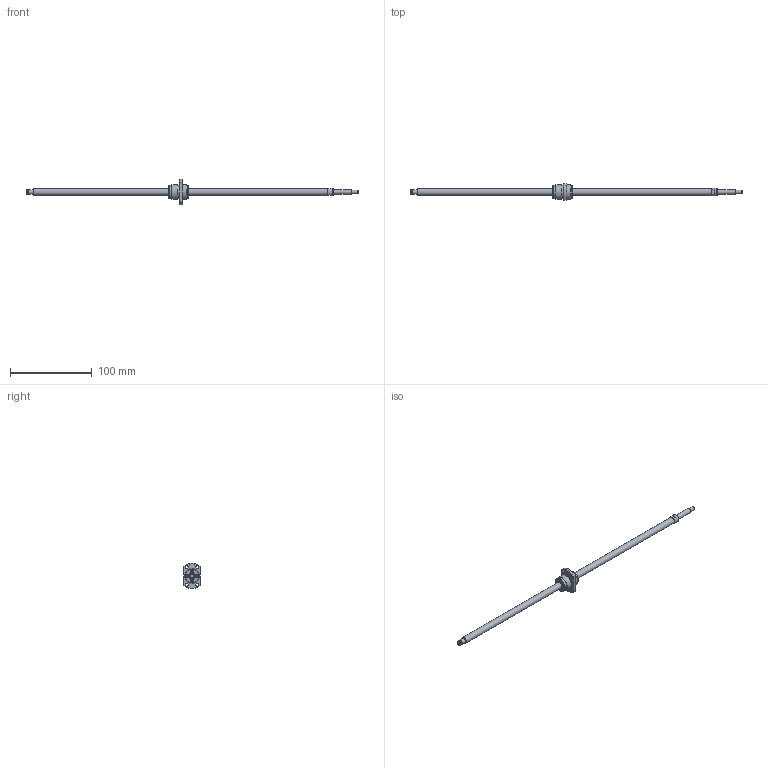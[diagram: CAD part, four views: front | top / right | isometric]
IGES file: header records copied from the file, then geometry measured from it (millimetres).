
Start section: Data from Parasolid IGES Translator 26.0.171, Copyright(c) 2006 Siemens PLM Software. All Rights Reserved.
Global section: file name: BNK0810-3GT+405LC5Y(189).igs; native system: By Siemens PLM Incorporated; preprocessor: XPlus GENERIC/IGES 26.0.171; author: Noname; organization: Noname; date: 20240709.085651; units: millimetre
Bounding box: 405 x 20 x 31 mm (x, y, z)
Surface area: 13419.7 mm2 (no closed solid volume)
Topology: 0 solids, 0 shells, 116 faces, 542 edges, 495 vertices
Faces by surface type: extrusion 66, revolution 50
